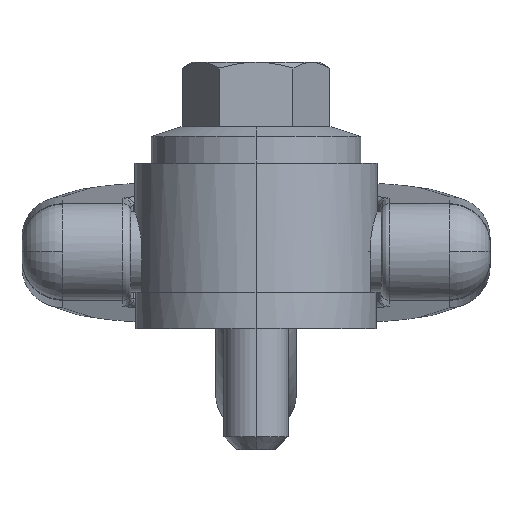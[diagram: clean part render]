
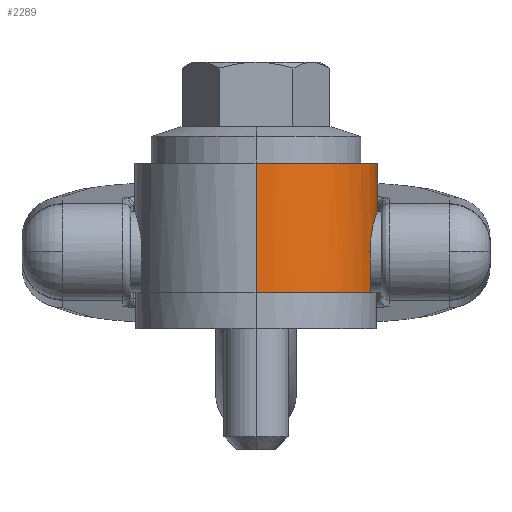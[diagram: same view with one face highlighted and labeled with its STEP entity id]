
A CAD part, top view. The second image highlights one B-rep face of the part: STEP entity #2289.
In plain terms, the highlighted cylindrical face has radius 15 mm (diameter 30 mm), a partial arc.
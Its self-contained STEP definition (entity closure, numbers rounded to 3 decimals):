
#289 = EDGE_LOOP ( 'NONE', ( #3196, #3194, #3149, #2457, #2453, #2459, #2451, #2438 ) ) ;
#531 = CARTESIAN_POINT ( 'NONE',  ( 14.142, 4.5, 5. ) ) ;
#561 = DIRECTION ( 'NONE',  ( 0., -1., 0. ) ) ;
#562 = VECTOR ( 'NONE', #561, 1000. ) ;
#563 = CARTESIAN_POINT ( 'NONE',  ( 0., 33., 15. ) ) ;
#564 = LINE ( 'NONE', #563, #562 ) ;
#580 = CARTESIAN_POINT ( 'NONE',  ( 0., 4.5, 15. ) ) ;
#581 = CARTESIAN_POINT ( 'NONE',  ( 0., 20.5, 15. ) ) ;
#583 = CARTESIAN_POINT ( 'NONE',  ( 0., 20.5, -15. ) ) ;
#601 = DIRECTION ( 'NONE',  ( 0., 0., 1. ) ) ;
#602 = DIRECTION ( 'NONE',  ( 0., 1., 0. ) ) ;
#603 = CARTESIAN_POINT ( 'NONE',  ( 0., 20.5, 0. ) ) ;
#604 = AXIS2_PLACEMENT_3D ( 'NONE', #603, #602, #601 ) ;
#608 = CIRCLE ( 'NONE', #604, 15. ) ;
#951 = DIRECTION ( 'NONE',  ( 0., -1., 0. ) ) ;
#952 = VECTOR ( 'NONE', #951, 1000. ) ;
#953 = CARTESIAN_POINT ( 'NONE',  ( 0., 33., -15. ) ) ;
#954 = LINE ( 'NONE', #953, #952 ) ;
#2289 = ADVANCED_FACE ( 'NONE', ( #3783 ), #3781, .T. ) ;
#2438 = ORIENTED_EDGE ( 'NONE', *, *, #3372, .F. ) ;
#2439 = VERTEX_POINT ( 'NONE', #4100 ) ;
#2449 = EDGE_CURVE ( 'NONE', #2439, #2450, #4088, .T. ) ;
#2450 = VERTEX_POINT ( 'NONE', #4079 ) ;
#2451 = ORIENTED_EDGE ( 'NONE', *, *, #2449, .F. ) ;
#2453 = ORIENTED_EDGE ( 'NONE', *, *, #2458, .T. ) ;
#2454 = VERTEX_POINT ( 'NONE', #4078 ) ;
#2456 = EDGE_CURVE ( 'NONE', #3159, #2461, #4077, .T. ) ;
#2457 = ORIENTED_EDGE ( 'NONE', *, *, #2456, .T. ) ;
#2458 = EDGE_CURVE ( 'NONE', #2461, #2454, #4072, .T. ) ;
#2459 = ORIENTED_EDGE ( 'NONE', *, *, #2462, .T. ) ;
#2461 = VERTEX_POINT ( 'NONE', #4071 ) ;
#2462 = EDGE_CURVE ( 'NONE', #2454, #2450, #4073, .T. ) ;
#2463 = EDGE_CURVE ( 'NONE', #3159, #3181, #4106, .T. ) ;
#3149 = ORIENTED_EDGE ( 'NONE', *, *, #2463, .F. ) ;
#3159 = VERTEX_POINT ( 'NONE', #531 ) ;
#3173 = VERTEX_POINT ( 'NONE', #583 ) ;
#3175 = VERTEX_POINT ( 'NONE', #581 ) ;
#3181 = VERTEX_POINT ( 'NONE', #580 ) ;
#3191 = EDGE_CURVE ( 'NONE', #3175, #3181, #564, .T. ) ;
#3194 = ORIENTED_EDGE ( 'NONE', *, *, #3191, .T. ) ;
#3196 = ORIENTED_EDGE ( 'NONE', *, *, #3197, .F. ) ;
#3197 = EDGE_CURVE ( 'NONE', #3175, #3173, #608, .T. ) ;
#3372 = EDGE_CURVE ( 'NONE', #3173, #2439, #954, .T. ) ;
#3777 = DIRECTION ( 'NONE',  ( 0., 0., -1. ) ) ;
#3778 = DIRECTION ( 'NONE',  ( 0., -1., 0. ) ) ;
#3779 = CARTESIAN_POINT ( 'NONE',  ( 0., 33., 0. ) ) ;
#3780 = AXIS2_PLACEMENT_3D ( 'NONE', #3779, #3778, #3777 ) ;
#3781 = CYLINDRICAL_SURFACE ( 'NONE', #3780, 15. ) ;
#3783 = FACE_OUTER_BOUND ( 'NONE', #289, .T. ) ;
#4071 = CARTESIAN_POINT ( 'NONE',  ( 14.142, 9.5, 5. ) ) ;
#4072 = B_SPLINE_CURVE_WITH_KNOTS ( 'NONE', 3,
 ( #4148, #4147, #4146, #4145, #4144, #4143, #4142, #4141, #4140, #4139, #4138, #4136, #4135, #4134, #4133, #4132, #4131, #4130, #4129, #4128, #4127, #4126, #4125, #4124, #4123, #4122, #4121, #4120, #4119, #4117, #4116, #4115, #4114, #4113, #4112, #4111 ),
 .UNSPECIFIED., .F., .F.,
 ( 4, 2, 2, 2, 2, 2, 2, 2, 2, 2, 2, 2, 2, 2, 2, 2, 2, 4 ),
 ( 0., 0.001, 0.002, 0.003, 0.004, 0.005, 0.006, 0.006, 0.007, 0.008, 0.009, 0.01, 0.011, 0.012, 0.013, 0.014, 0.015, 0.016 ),
 .UNSPECIFIED. ) ;
#4073 = LINE ( 'NONE', #4110, #4109 ) ;
#4074 = DIRECTION ( 'NONE',  ( 0., 1., 0. ) ) ;
#4075 = VECTOR ( 'NONE', #4074, 1000. ) ;
#4076 = CARTESIAN_POINT ( 'NONE',  ( 14.142, 33., 5. ) ) ;
#4077 = LINE ( 'NONE', #4076, #4075 ) ;
#4078 = CARTESIAN_POINT ( 'NONE',  ( 14.142, 9.5, -5. ) ) ;
#4079 = CARTESIAN_POINT ( 'NONE',  ( 14.142, 4.5, -5. ) ) ;
#4080 = DIRECTION ( 'NONE',  ( 0., 0., -1. ) ) ;
#4081 = DIRECTION ( 'NONE',  ( 0., -1., 0. ) ) ;
#4082 = CARTESIAN_POINT ( 'NONE',  ( 0., 4.5, 0. ) ) ;
#4083 = AXIS2_PLACEMENT_3D ( 'NONE', #4082, #4081, #4080 ) ;
#4088 = CIRCLE ( 'NONE', #4083, 15. ) ;
#4100 = CARTESIAN_POINT ( 'NONE',  ( 0., 4.5, -15. ) ) ;
#4102 = DIRECTION ( 'NONE',  ( 0., 0., -1. ) ) ;
#4103 = DIRECTION ( 'NONE',  ( 0., -1., 0. ) ) ;
#4104 = CARTESIAN_POINT ( 'NONE',  ( 0., 4.5, 0. ) ) ;
#4105 = AXIS2_PLACEMENT_3D ( 'NONE', #4104, #4103, #4102 ) ;
#4106 = CIRCLE ( 'NONE', #4105, 15. ) ;
#4108 = DIRECTION ( 'NONE',  ( 0., -1., 0. ) ) ;
#4109 = VECTOR ( 'NONE', #4108, 1000. ) ;
#4110 = CARTESIAN_POINT ( 'NONE',  ( 14.142, 33., -5. ) ) ;
#4111 = CARTESIAN_POINT ( 'NONE',  ( 14.142, 9.5, -5. ) ) ;
#4112 = CARTESIAN_POINT ( 'NONE',  ( 14.142, 9.833, -5. ) ) ;
#4113 = CARTESIAN_POINT ( 'NONE',  ( 14.154, 10.165, -4.967 ) ) ;
#4114 = CARTESIAN_POINT ( 'NONE',  ( 14.199, 10.812, -4.836 ) ) ;
#4115 = CARTESIAN_POINT ( 'NONE',  ( 14.232, 11.124, -4.74 ) ) ;
#4116 = CARTESIAN_POINT ( 'NONE',  ( 14.313, 11.725, -4.489 ) ) ;
#4117 = CARTESIAN_POINT ( 'NONE',  ( 14.362, 12.017, -4.332 ) ) ;
#4119 = CARTESIAN_POINT ( 'NONE',  ( 14.466, 12.557, -3.97 ) ) ;
#4120 = CARTESIAN_POINT ( 'NONE',  ( 14.522, 12.806, -3.765 ) ) ;
#4121 = CARTESIAN_POINT ( 'NONE',  ( 14.633, 13.266, -3.305 ) ) ;
#4122 = CARTESIAN_POINT ( 'NONE',  ( 14.689, 13.475, -3.05 ) ) ;
#4123 = CARTESIAN_POINT ( 'NONE',  ( 14.791, 13.836, -2.511 ) ) ;
#4124 = CARTESIAN_POINT ( 'NONE',  ( 14.838, 13.991, -2.222 ) ) ;
#4125 = CARTESIAN_POINT ( 'NONE',  ( 14.916, 14.244, -1.614 ) ) ;
#4126 = CARTESIAN_POINT ( 'NONE',  ( 14.947, 14.339, -1.301 ) ) ;
#4127 = CARTESIAN_POINT ( 'NONE',  ( 14.989, 14.467, -0.657 ) ) ;
#4128 = CARTESIAN_POINT ( 'NONE',  ( 15., 14.5, -0.323 ) ) ;
#4129 = CARTESIAN_POINT ( 'NONE',  ( 15., 14.5, 0.334 ) ) ;
#4130 = CARTESIAN_POINT ( 'NONE',  ( 14.989, 14.467, 0.66 ) ) ;
#4131 = CARTESIAN_POINT ( 'NONE',  ( 14.957, 14.37, 1.145 ) ) ;
#4132 = CARTESIAN_POINT ( 'NONE',  ( 14.944, 14.329, 1.306 ) ) ;
#4133 = CARTESIAN_POINT ( 'NONE',  ( 14.913, 14.233, 1.621 ) ) ;
#4134 = CARTESIAN_POINT ( 'NONE',  ( 14.895, 14.177, 1.774 ) ) ;
#4135 = CARTESIAN_POINT ( 'NONE',  ( 14.837, 13.99, 2.225 ) ) ;
#4136 = CARTESIAN_POINT ( 'NONE',  ( 14.791, 13.836, 2.512 ) ) ;
#4138 = CARTESIAN_POINT ( 'NONE',  ( 14.688, 13.47, 3.057 ) ) ;
#4139 = CARTESIAN_POINT ( 'NONE',  ( 14.633, 13.264, 3.307 ) ) ;
#4140 = CARTESIAN_POINT ( 'NONE',  ( 14.522, 12.806, 3.765 ) ) ;
#4141 = CARTESIAN_POINT ( 'NONE',  ( 14.465, 12.552, 3.974 ) ) ;
#4142 = CARTESIAN_POINT ( 'NONE',  ( 14.361, 12.01, 4.336 ) ) ;
#4143 = CARTESIAN_POINT ( 'NONE',  ( 14.313, 11.724, 4.49 ) ) ;
#4144 = CARTESIAN_POINT ( 'NONE',  ( 14.232, 11.12, 4.741 ) ) ;
#4145 = CARTESIAN_POINT ( 'NONE',  ( 14.198, 10.802, 4.839 ) ) ;
#4146 = CARTESIAN_POINT ( 'NONE',  ( 14.154, 10.16, 4.967 ) ) ;
#4147 = CARTESIAN_POINT ( 'NONE',  ( 14.142, 9.833, 5. ) ) ;
#4148 = CARTESIAN_POINT ( 'NONE',  ( 14.142, 9.5, 5. ) ) ;
